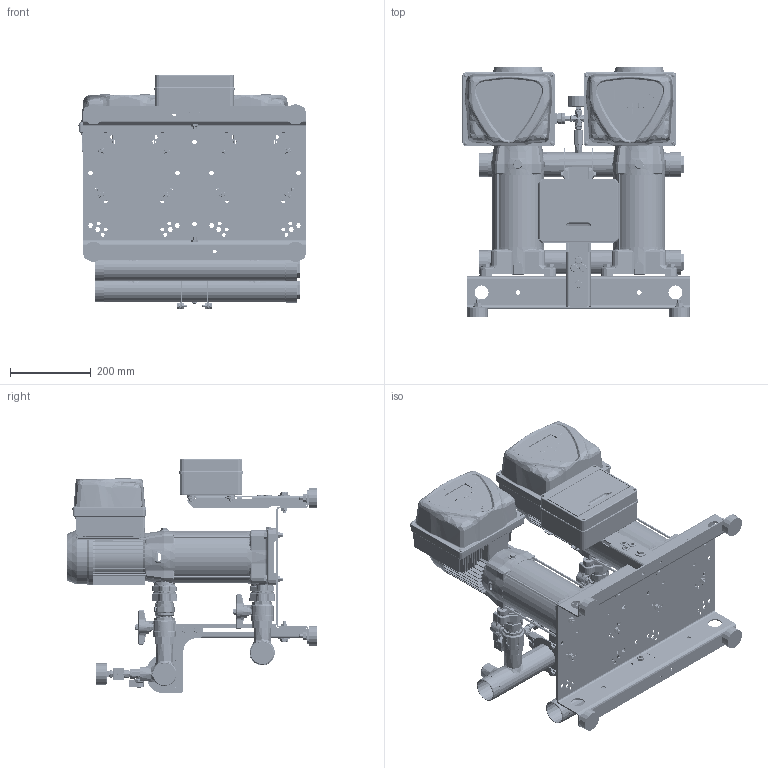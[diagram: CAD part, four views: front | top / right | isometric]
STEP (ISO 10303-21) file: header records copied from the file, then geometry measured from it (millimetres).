
FILE_DESCRIPTION((''),'2;1');
FILE_NAME('2GPE_CVM_A15_ESPM_REV4_ASM','2024-12-03T11:44:19',('Utente'),('"Ebara Pumps Europe S.p.A"'),'CREO PARAMETRIC BY PTC INC, 2022124','CREO PARAMETRIC BY PTC INC, 2022124','');
FILE_SCHEMA(('AUTOMOTIVE_DESIGN { 1 0 10303 214 1 1 1 1 }'));
Products named in the file (45): 62508_275562936; CALOTTA_F_A304_DN50_369800820; VAL_INT_MF_OTN_CIM301-14_DN32; VAL_INT_M-F_OTN_CIM301_DN32_ASM; EP_CVM_A-15_R; EP_CVM_A-15_R_ASM; ADATTATORE_E-SPD_MEC71; E-SPD_ADATTATORE_MEC71_ASM; BACK_E-SPD_PLUS_2200-4000; COVER_E-SPD_PLUS_2200-4000; COM_E-SPDM_MEC71_VERT_ASM; VAL-NR-MF-OTN-CIM32-DN32; VALV_NR_MF_CIM32_DN32_ASM; RONDEL-P_FE_ZN_UNI6592_M10; DADO_AUTOAGG_M10_ESAG; VITI_TE_ISO4017_M10_L40; 62513_275562944; VAL_INT_MF_OTN_CIM012_DN8; NIPPLO_OTG_8_380000861; CROCE_OTG_DN8_380000881; TRASD_16BAR_460500024; MAN_POS_D50_10BAR_361600003; BASE_2GP_I300-B300_DNRV; MONTANTE_H300_271472898; PIEDINO_CIL_369650010; DADI_NORM_ISO4032_FE_ZN_M10; RONDEL-P_ZN_UNI6593_M10X30X2-5; VITI_TE_ISO4017_M10_L45; TRAVERSO_MONT_L200_271472882; RONDEL-P_FE_ZN_UNI6593_M6X18X2; RONDEL-P_FE_ZN_UNI6592_M6; VITI_TE_ISO4017_M6_L20; DADI_NORM_ISO4032_FE_ZN_M6; DNRV_2P_I300-B300_H300-Q195X150_ASM; QUADRO_PROT_2P_M_ELENTEK; PG_PVC_D10-5_380000891; TAPPO-SALVAFIL_D31; 271473006; 271472998; 72578_271473004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
Assembly tree (134 placements, depth 3):
  2GPE_CVM_A15_ESPM_REV4_ASM
    62508_275562936
    CALOTTA_F_A304_DN50_369800820  x2
    VAL_INT_M-F_OTN_CIM301_DN32_ASM  x4
      VAL_INT_MF_OTN_CIM301-14_DN32
    EP_CVM_A-15_R_ASM  x2
      EP_CVM_A-15_R
    E-SPD_ADATTATORE_MEC71_ASM  x2
      ADATTATORE_E-SPD_MEC71
    COM_E-SPDM_MEC71_VERT_ASM  x2
      BACK_E-SPD_PLUS_2200-4000
      COVER_E-SPD_PLUS_2200-4000
    VALV_NR_MF_CIM32_DN32_ASM  x2
      VAL-NR-MF-OTN-CIM32-DN32
    RONDEL-P_FE_ZN_UNI6592_M10  x8
    DADO_AUTOAGG_M10_ESAG  x9
    VITI_TE_ISO4017_M10_L40  x8
    62513_275562944
    VAL_INT_MF_OTN_CIM012_DN8
    NIPPLO_OTG_8_380000861
    CROCE_OTG_DN8_380000881
    TRASD_16BAR_460500024  x2
    MAN_POS_D50_10BAR_361600003
    DNRV_2P_I300-B300_H300-Q195X150_ASM
      BASE_2GP_I300-B300_DNRV
      MONTANTE_H300_271472898
      PIEDINO_CIL_369650010  x4
      RONDEL-P_FE_ZN_UNI6592_M10  x4
      DADI_NORM_ISO4032_FE_ZN_M10  x4
      RONDEL-P_ZN_UNI6593_M10X30X2-5
      VITI_TE_ISO4017_M10_L45
      TRAVERSO_MONT_L200_271472882  x2
      RONDEL-P_FE_ZN_UNI6593_M6X18X2  x8
      RONDEL-P_FE_ZN_UNI6592_M6  x4
      VITI_TE_ISO4017_M6_L20  x4
      DADI_NORM_ISO4032_FE_ZN_M6  x4
      DADO_AUTOAGG_M10_ESAG
    QUADRO_PROT_2P_M_ELENTEK
    PG_PVC_D10-5_380000891  x3
    TAPPO-SALVAFIL_D31  x2
    271473006
    271472998  x2
    72578_271473004  x2
    RONDEL-P_ZN_UNI6593_M10X30X2-5
    VITI_TE_ISO4017_M10_L45
    RONDEL-P_FE_ZN_UNI6592_M8  x12
    VITI_TE_ISO4017_M8_L18  x8
    DADI_NORM_ISO4032_FE_ZN_M8  x4
    DADO_AUTOAGG_M8_ESAG  x4
Bounding box: 562.5 x 617.6 x 581.25 mm (x, y, z)
Volume: 4114807.6 mm3; surface area: 4556076.3 mm2
Topology: 296 solids, 1277 shells, 32658 faces, 85173 edges, 52542 vertices
Faces by surface type: plane 15767, cylinder 8005, bspline 2637, sphere 2073, cone 1521, extrusion 1426, torus 1229
Entity records: 735289 total; most frequent: CARTESIAN_POINT 288288, ORIENTED_EDGE 74528, DIRECTION 71820, EDGE_CURVE 38610, VERTEX_POINT 24222, AXIS2_PLACEMENT_3D 23963, VECTOR 23762, LINE 23132
